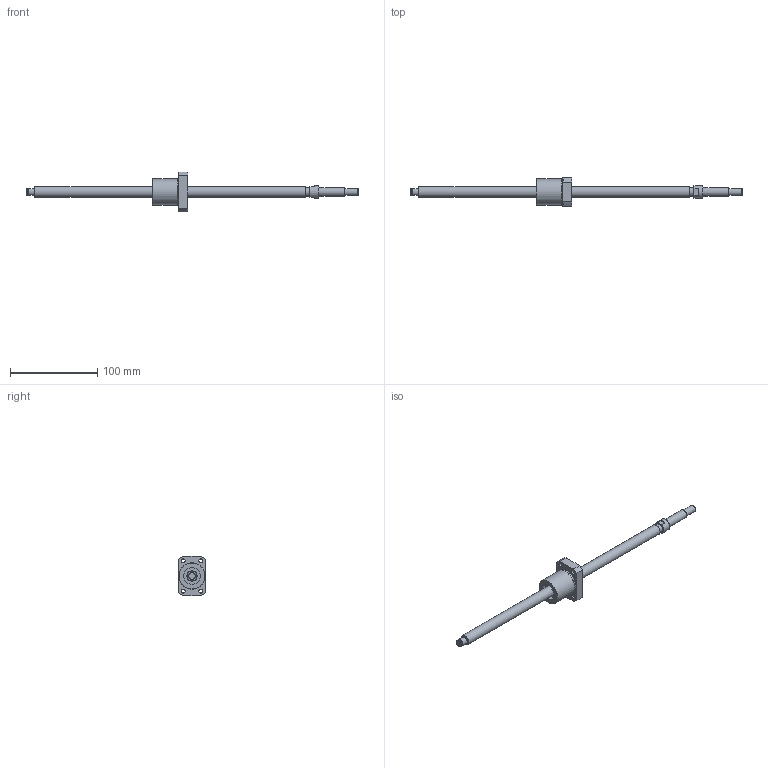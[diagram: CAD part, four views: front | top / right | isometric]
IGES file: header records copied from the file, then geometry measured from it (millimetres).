
Start section: Data from Parasolid IGES Translator 26.0.171, Copyright(c) 2006 Siemens PLM Software. All Rights Reserved.
Global section: file name: BNK1205-2.5RRG0+380LC5Y(1750).igs; native system: By Siemens PLM Incorporated; preprocessor: XPlus GENERIC/IGES 26.0.171; author: Noname; organization: Noname; date: 20240709.090931; units: millimetre
Bounding box: 380 x 32 x 45 mm (x, y, z)
Surface area: 23620.5 mm2 (no closed solid volume)
Topology: 0 solids, 0 shells, 76 faces, 323 edges, 278 vertices
Faces by surface type: revolution 47, extrusion 29
